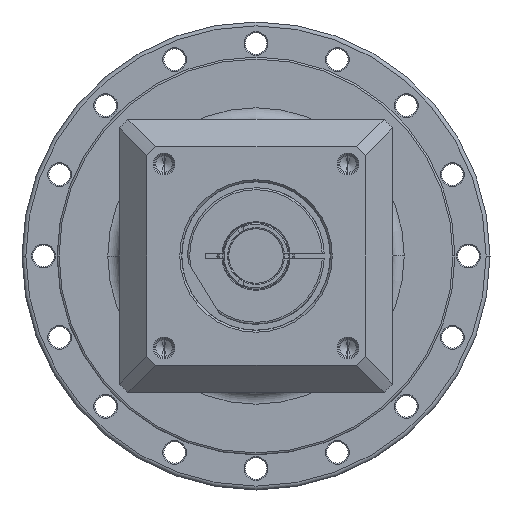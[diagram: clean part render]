
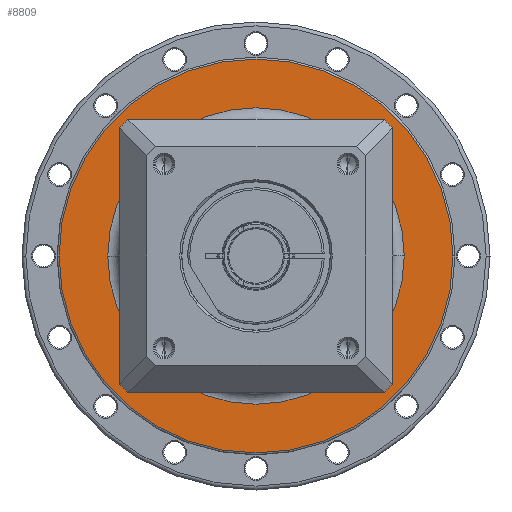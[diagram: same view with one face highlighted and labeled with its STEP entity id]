
A CAD part, left-side view. The second image highlights one B-rep face of the part: STEP entity #8809.
In plain terms, the highlighted planar face has unit normal (-1, 0, 0) as drawn and (1, 0, 0) by its records, which use the part's own axes.
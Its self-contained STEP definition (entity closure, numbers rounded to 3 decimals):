
#8406=CARTESIAN_POINT('',(-33.5,0.,0.));
#8407=DIRECTION('',(-1.,0.,0.));
#8408=DIRECTION('',(0.,-1.,0.));
#8409=AXIS2_PLACEMENT_3D('',#8406,#8407,#8408);
#8411=CARTESIAN_POINT('',(-33.5,0.,0.));
#8412=DIRECTION('',(-1.,0.,0.));
#8413=DIRECTION('',(0.,1.,0.));
#8414=AXIS2_PLACEMENT_3D('',#8411,#8412,#8413);
#8416=CARTESIAN_POINT('',(-33.5,0.,0.));
#8417=DIRECTION('',(-1.,0.,0.));
#8418=DIRECTION('',(0.,-1.,0.));
#8419=AXIS2_PLACEMENT_3D('',#8416,#8417,#8418);
#8421=CARTESIAN_POINT('',(-33.5,0.,0.));
#8422=DIRECTION('',(-1.,0.,0.));
#8423=DIRECTION('',(0.,1.,0.));
#8424=AXIS2_PLACEMENT_3D('',#8421,#8422,#8423);
#8594=CARTESIAN_POINT('',(-33.5,-50.5,0.));
#8595=CARTESIAN_POINT('',(-33.5,50.5,0.));
#8596=VERTEX_POINT('',#8594);
#8597=VERTEX_POINT('',#8595);
#8614=CARTESIAN_POINT('',(-33.5,-38.,0.));
#8615=CARTESIAN_POINT('',(-33.5,38.,0.));
#8616=VERTEX_POINT('',#8614);
#8617=VERTEX_POINT('',#8615);
#8794=CARTESIAN_POINT('',(-33.5,0.,0.));
#8795=DIRECTION('',(1.,0.,0.));
#8796=DIRECTION('',(0.,-1.,0.));
#8797=AXIS2_PLACEMENT_3D('',#8794,#8795,#8796);
#8798=PLANE('',#8797);
#8800=ORIENTED_EDGE('',*,*,#8799,.T.);
#8802=ORIENTED_EDGE('',*,*,#8801,.T.);
#8803=EDGE_LOOP('',(#8800,#8802));
#8804=FACE_OUTER_BOUND('',#8803,.F.);
#8805=ORIENTED_EDGE('',*,*,#8788,.F.);
#8806=ORIENTED_EDGE('',*,*,#8774,.F.);
#8807=EDGE_LOOP('',(#8805,#8806));
#8808=FACE_BOUND('',#8807,.F.);
#8809=ADVANCED_FACE('',(#8804,#8808),#8798,.T.);
#8410=CIRCLE('',#8409,38.);
#8415=CIRCLE('',#8414,38.);
#8420=CIRCLE('',#8419,50.5);
#8425=CIRCLE('',#8424,50.5);
#8774=EDGE_CURVE('',#8617,#8616,#8415,.T.);
#8788=EDGE_CURVE('',#8616,#8617,#8410,.T.);
#8799=EDGE_CURVE('',#8596,#8597,#8420,.T.);
#8801=EDGE_CURVE('',#8597,#8596,#8425,.T.);
